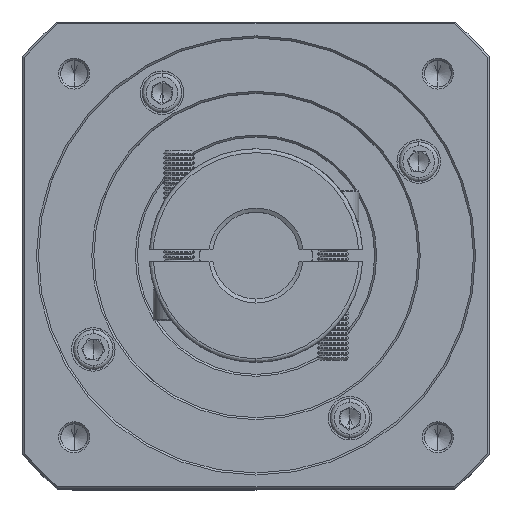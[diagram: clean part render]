
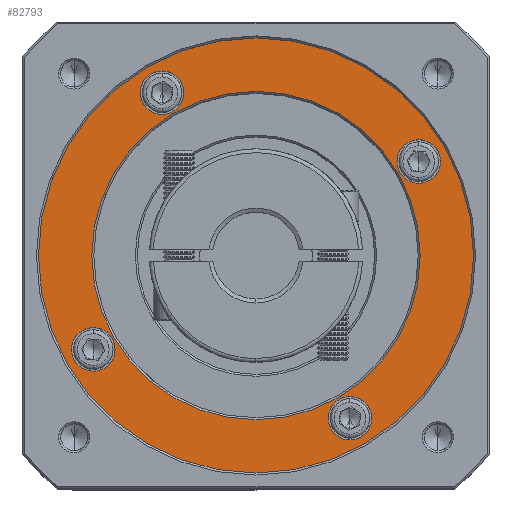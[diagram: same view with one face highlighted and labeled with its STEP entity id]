
A CAD part, top view. The second image highlights one B-rep face of the part: STEP entity #82793.
In plain terms, the highlighted planar face has unit normal (0, 0, 1).
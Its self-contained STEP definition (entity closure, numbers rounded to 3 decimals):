
#22 = CARTESIAN_POINT ( 'NONE',  ( 85.98, 20.837, -2.927 ) ) ;
#4648 = CIRCLE ( 'NONE', #49189, 5.5 ) ;
#5351 = CARTESIAN_POINT ( 'NONE',  ( 85.98, 9.837, -2.927 ) ) ;
#10224 = EDGE_CURVE ( 'NONE', #85322, #59340, #56133, .T. ) ;
#13436 = CIRCLE ( 'NONE', #32082, 5.5 ) ;
#15666 = EDGE_CURVE ( 'NONE', #24656, #92531, #4648, .T. ) ;
#16821 = DIRECTION ( 'NONE',  ( 0., 0., -1. ) ) ;
#16925 = EDGE_CURVE ( 'NONE', #39641, #40808, #84308, .T. ) ;
#17028 = CARTESIAN_POINT ( 'NONE',  ( 21.094, 27.223, -2.927 ) ) ;
#17654 = CARTESIAN_POINT ( 'NONE',  ( 62.23, 56.473, -2.927 ) ) ;
#19581 = FACE_OUTER_BOUND ( 'NONE', #23162, .T. ) ;
#21047 = FACE_BOUND ( 'NONE', #122523, .T. ) ;
#21127 = AXIS2_PLACEMENT_3D ( 'NONE', #60837, #109480, #70709 ) ;
#21199 = CARTESIAN_POINT ( 'NONE',  ( 38.48, 97.609, -2.927 ) ) ;
#23162 = EDGE_LOOP ( 'NONE', ( #58126, #116233 ) ) ;
#24481 = EDGE_CURVE ( 'NONE', #121082, #83660, #92612, .T. ) ;
#24656 = VERTEX_POINT ( 'NONE', #73002 ) ;
#26367 = ORIENTED_EDGE ( 'NONE', *, *, #67510, .T. ) ;
#27606 = DIRECTION ( 'NONE',  ( -1., 0., 0. ) ) ;
#27950 = EDGE_LOOP ( 'NONE', ( #52834, #67615 ) ) ;
#29479 = DIRECTION ( 'NONE',  ( -1., 0., 0. ) ) ;
#32082 = AXIS2_PLACEMENT_3D ( 'NONE', #64140, #36014, #74010 ) ;
#35794 = DIRECTION ( 'NONE',  ( 0., 0., 1. ) ) ;
#36014 = DIRECTION ( 'NONE',  ( 0., 0., -1. ) ) ;
#37684 = CIRCLE ( 'NONE', #118716, 5.5 ) ;
#37962 = DIRECTION ( 'NONE',  ( 0., -1., 0. ) ) ;
#38596 = CARTESIAN_POINT ( 'NONE',  ( 103.366, 85.723, -2.927 ) ) ;
#38894 = DIRECTION ( 'NONE',  ( 0., 0., -1. ) ) ;
#39604 = CIRCLE ( 'NONE', #61003, 41.5 ) ;
#39641 = VERTEX_POINT ( 'NONE', #46847 ) ;
#40808 = VERTEX_POINT ( 'NONE', #78580 ) ;
#40893 = CARTESIAN_POINT ( 'NONE',  ( 103.366, 80.223, -2.927 ) ) ;
#41772 = DIRECTION ( 'NONE',  ( 0., 0., -1. ) ) ;
#41804 = VERTEX_POINT ( 'NONE', #76033 ) ;
#41889 = DIRECTION ( 'NONE',  ( 0., 0., -1. ) ) ;
#42043 = ORIENTED_EDGE ( 'NONE', *, *, #24481, .T. ) ;
#44577 = AXIS2_PLACEMENT_3D ( 'NONE', #77047, #57621, #125959 ) ;
#46712 = EDGE_CURVE ( 'NONE', #92531, #24656, #83207, .T. ) ;
#46847 = CARTESIAN_POINT ( 'NONE',  ( 62.23, 1.473, -2.927 ) ) ;
#47775 = ORIENTED_EDGE ( 'NONE', *, *, #10224, .T. ) ;
#47867 = DIRECTION ( 'NONE',  ( 0., 0., -1. ) ) ;
#49189 = AXIS2_PLACEMENT_3D ( 'NONE', #58620, #59028, #78466 ) ;
#50187 = CIRCLE ( 'NONE', #73306, 5.5 ) ;
#52834 = ORIENTED_EDGE ( 'NONE', *, *, #15666, .T. ) ;
#52997 = AXIS2_PLACEMENT_3D ( 'NONE', #103965, #104811, #37962 ) ;
#53625 = AXIS2_PLACEMENT_3D ( 'NONE', #74408, #93415, #64567 ) ;
#55539 = ORIENTED_EDGE ( 'NONE', *, *, #72457, .T. ) ;
#56133 = CIRCLE ( 'NONE', #120909, 5.5 ) ;
#57621 = DIRECTION ( 'NONE',  ( 0., 0., -1. ) ) ;
#58126 = ORIENTED_EDGE ( 'NONE', *, *, #16925, .T. ) ;
#58620 = CARTESIAN_POINT ( 'NONE',  ( 103.366, 80.223, -2.927 ) ) ;
#59028 = DIRECTION ( 'NONE',  ( 0., 0., -1. ) ) ;
#59340 = VERTEX_POINT ( 'NONE', #17028 ) ;
#59544 = CARTESIAN_POINT ( 'NONE',  ( 38.48, 103.109, -2.927 ) ) ;
#60837 = CARTESIAN_POINT ( 'NONE',  ( 62.23, 56.473, -2.927 ) ) ;
#61003 = AXIS2_PLACEMENT_3D ( 'NONE', #67863, #38894, #29479 ) ;
#61679 = EDGE_LOOP ( 'NONE', ( #66761, #47775 ) ) ;
#62297 = EDGE_CURVE ( 'NONE', #40808, #39641, #93003, .T. ) ;
#63930 = DIRECTION ( 'NONE',  ( 0., -1., 0. ) ) ;
#64140 = CARTESIAN_POINT ( 'NONE',  ( 21.094, 32.723, -2.927 ) ) ;
#64567 = DIRECTION ( 'NONE',  ( 0., -1., 0. ) ) ;
#65899 = FACE_BOUND ( 'NONE', #27950, .T. ) ;
#66761 = ORIENTED_EDGE ( 'NONE', *, *, #77410, .T. ) ;
#67510 = EDGE_CURVE ( 'NONE', #69850, #103500, #111562, .T. ) ;
#67615 = ORIENTED_EDGE ( 'NONE', *, *, #46712, .T. ) ;
#67863 = CARTESIAN_POINT ( 'NONE',  ( 62.23, 56.473, -2.927 ) ) ;
#69850 = VERTEX_POINT ( 'NONE', #5351 ) ;
#70709 = DIRECTION ( 'NONE',  ( 0., -1., 0. ) ) ;
#72457 = EDGE_CURVE ( 'NONE', #41804, #87156, #122447, .T. ) ;
#73002 = CARTESIAN_POINT ( 'NONE',  ( 103.366, 74.723, -2.927 ) ) ;
#73306 = AXIS2_PLACEMENT_3D ( 'NONE', #21199, #41889, #79844 ) ;
#74010 = DIRECTION ( 'NONE',  ( 0., -1., 0. ) ) ;
#74408 = CARTESIAN_POINT ( 'NONE',  ( 62.23, 56.473, -2.927 ) ) ;
#75871 = DIRECTION ( 'NONE',  ( 0., -1., 0. ) ) ;
#75947 = ORIENTED_EDGE ( 'NONE', *, *, #101485, .T. ) ;
#76033 = CARTESIAN_POINT ( 'NONE',  ( 103.73, 56.473, -2.927 ) ) ;
#77047 = CARTESIAN_POINT ( 'NONE',  ( 38.48, 97.609, -2.927 ) ) ;
#77410 = EDGE_CURVE ( 'NONE', #59340, #85322, #13436, .T. ) ;
#78466 = DIRECTION ( 'NONE',  ( 0., -1., 0. ) ) ;
#78580 = CARTESIAN_POINT ( 'NONE',  ( 62.23, 111.473, -2.927 ) ) ;
#79697 = FACE_BOUND ( 'NONE', #81429, .T. ) ;
#79844 = DIRECTION ( 'NONE',  ( 0., -1., 0. ) ) ;
#81429 = EDGE_LOOP ( 'NONE', ( #42043, #119341 ) ) ;
#82793 = ADVANCED_FACE ( 'NONE', ( #19581, #116609, #21047, #84279, #65899, #79697 ), #123401, .T. ) ;
#83207 = CIRCLE ( 'NONE', #120357, 5.5 ) ;
#83660 = VERTEX_POINT ( 'NONE', #59544 ) ;
#84279 = FACE_BOUND ( 'NONE', #61679, .T. ) ;
#84308 = CIRCLE ( 'NONE', #21127, 55. ) ;
#85322 = VERTEX_POINT ( 'NONE', #127548 ) ;
#87050 = CARTESIAN_POINT ( 'NONE',  ( 85.98, 15.337, -2.927 ) ) ;
#87156 = VERTEX_POINT ( 'NONE', #126140 ) ;
#92531 = VERTEX_POINT ( 'NONE', #38596 ) ;
#92612 = CIRCLE ( 'NONE', #44577, 5.5 ) ;
#93003 = CIRCLE ( 'NONE', #106838, 55. ) ;
#93415 = DIRECTION ( 'NONE',  ( 0., 0., 1. ) ) ;
#94212 = DIRECTION ( 'NONE',  ( 0., -1., 0. ) ) ;
#94908 = CARTESIAN_POINT ( 'NONE',  ( 62.23, 56.473, -2.927 ) ) ;
#95042 = DIRECTION ( 'NONE',  ( 0., 0., -1. ) ) ;
#99439 = EDGE_LOOP ( 'NONE', ( #75947, #55539 ) ) ;
#100761 = DIRECTION ( 'NONE',  ( 0., -1., 0. ) ) ;
#101485 = EDGE_CURVE ( 'NONE', #87156, #41804, #39604, .T. ) ;
#101597 = CARTESIAN_POINT ( 'NONE',  ( 38.48, 92.109, -2.927 ) ) ;
#103500 = VERTEX_POINT ( 'NONE', #22 ) ;
#103965 = CARTESIAN_POINT ( 'NONE',  ( 85.98, 15.337, -2.927 ) ) ;
#104811 = DIRECTION ( 'NONE',  ( 0., 0., -1. ) ) ;
#106838 = AXIS2_PLACEMENT_3D ( 'NONE', #94908, #35794, #63930 ) ;
#109219 = ORIENTED_EDGE ( 'NONE', *, *, #111262, .T. ) ;
#109480 = DIRECTION ( 'NONE',  ( 0., 0., 1. ) ) ;
#110905 = EDGE_CURVE ( 'NONE', #83660, #121082, #50187, .T. ) ;
#111262 = EDGE_CURVE ( 'NONE', #103500, #69850, #37684, .T. ) ;
#111562 = CIRCLE ( 'NONE', #52997, 5.5 ) ;
#113066 = CARTESIAN_POINT ( 'NONE',  ( 21.094, 32.723, -2.927 ) ) ;
#116233 = ORIENTED_EDGE ( 'NONE', *, *, #62297, .T. ) ;
#116609 = FACE_BOUND ( 'NONE', #99439, .T. ) ;
#118716 = AXIS2_PLACEMENT_3D ( 'NONE', #87050, #16821, #75871 ) ;
#119341 = ORIENTED_EDGE ( 'NONE', *, *, #110905, .T. ) ;
#120357 = AXIS2_PLACEMENT_3D ( 'NONE', #40893, #41772, #100761 ) ;
#120909 = AXIS2_PLACEMENT_3D ( 'NONE', #113066, #95042, #94212 ) ;
#121082 = VERTEX_POINT ( 'NONE', #101597 ) ;
#122213 = AXIS2_PLACEMENT_3D ( 'NONE', #17654, #47867, #27606 ) ;
#122447 = CIRCLE ( 'NONE', #122213, 41.5 ) ;
#122523 = EDGE_LOOP ( 'NONE', ( #26367, #109219 ) ) ;
#123401 = PLANE ( 'NONE',  #53625 ) ;
#125959 = DIRECTION ( 'NONE',  ( 0., -1., 0. ) ) ;
#126140 = CARTESIAN_POINT ( 'NONE',  ( 20.73, 56.473, -2.927 ) ) ;
#127548 = CARTESIAN_POINT ( 'NONE',  ( 21.094, 38.223, -2.927 ) ) ;
